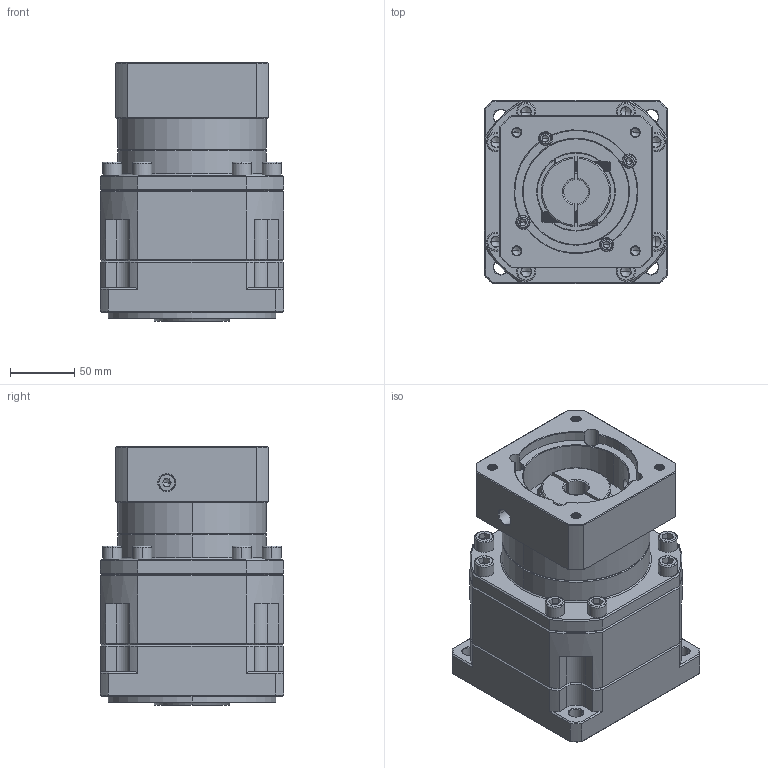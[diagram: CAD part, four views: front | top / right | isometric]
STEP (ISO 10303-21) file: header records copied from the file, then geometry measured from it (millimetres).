
FILE_DESCRIPTION (( 'STEP AP214' ), '1' );
FILE_NAME ('ZB142A-K35-L2-P2-19-95-130-M8.step', '2023-09-02T02:53:28', ( '' ), ( '' ), 'SwSTEP 2.0', 'SolidWorks 2016', '' );
FILE_SCHEMA (( 'AUTOMOTIVE_DESIGN' ));
Length unit declared in the file: millimetre
Products named in the file (1): ZB142A-K35-L2-P2-19-95-130-M8
Bounding box: 142 x 142 x 200.7 mm (x, y, z)
Volume: 2802013.6 mm3; surface area: 233436 mm2
Topology: 6 solids, 6 shells, 2491 faces, 6522 edges, 4152 vertices
Faces by surface type: plane 1198, cylinder 456, bspline 398, cone 383, torus 56
Entity records: 129362 total; most frequent: CARTESIAN_POINT 43760, ORIENTED_EDGE 12940, DIRECTION 10639, EDGE_CURVE 6470, VECTOR 4155, LINE 4155, VERTEX_POINT 4152, AXIS2_PLACEMENT_3D 3242
